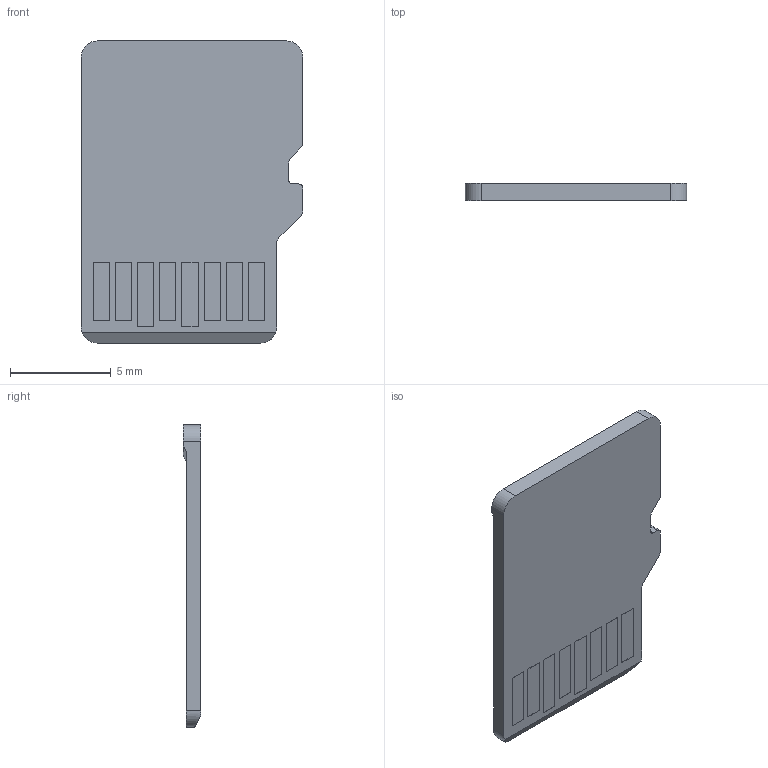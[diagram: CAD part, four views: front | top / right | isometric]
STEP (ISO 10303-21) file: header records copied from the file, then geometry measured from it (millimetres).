
FILE_DESCRIPTION((''),'2;1');
FILE_NAME('CARD_MICRO_SD','2016-05-13T',('otto_lian'),(''),'PRO/ENGINEER BY PARAMETRIC TECHNOLOGY CORPORATION, 2011180','PRO/ENGINEER BY PARAMETRIC TECHNOLOGY CORPORATION, 2011180','');
FILE_SCHEMA(('CONFIG_CONTROL_DESIGN'));
Length unit declared in the file: millimetre
Products named in the file (1): CARD_MICRO_SD
Bounding box: 11 x 0.85 x 15 mm (x, y, z)
Volume: 110.7 mm3; surface area: 348 mm2
Topology: 1 solids, 1 shells, 64 faces, 162 edges, 108 vertices
Faces by surface type: plane 54, cylinder 9, cone 1
Entity records: 1957 total; most frequent: CARTESIAN_POINT 355, ORIENTED_EDGE 324, DIRECTION 306, EDGE_CURVE 162, VECTOR 138, LINE 138, VERTEX_POINT 108, AXIS2_PLACEMENT_3D 84
